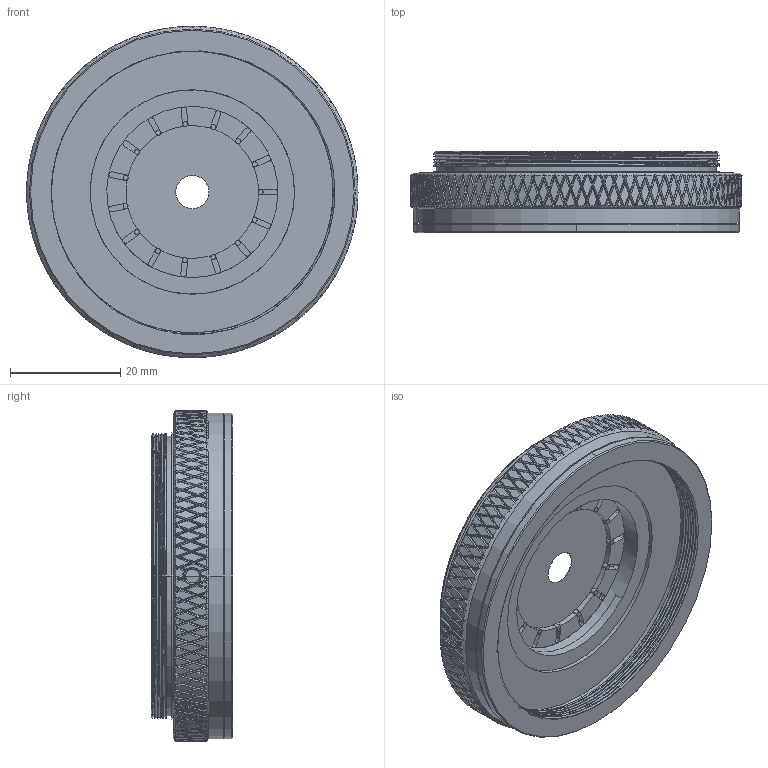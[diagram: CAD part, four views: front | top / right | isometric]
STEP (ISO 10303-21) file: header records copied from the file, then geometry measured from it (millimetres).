
FILE_DESCRIPTION((''),'2;1');
FILE_NAME('CDM-25_ASM','2025-07-01T11:52:51',('R&D'),(''),'CREO PARAMETRIC BY PTC INC, 2021063','CREO PARAMETRIC BY PTC INC, 2021063','');
FILE_SCHEMA(('CONFIG_CONTROL_DESIGN'));
Products named in the file (7): CDM-25-1; CDM-25-2; CDM-25-3; CDM-25-4; CDM-25-5; CDM-25-6; CDM-25_ASM
Assembly tree (6 placements, depth 2):
  CDM-25_ASM
    CDM-25-1
    CDM-25-2
    CDM-25-3
    CDM-25-4
    CDM-25-5
    CDM-25-6
Bounding box: 60.12 x 14.75 x 60 mm (x, y, z)
Volume: 19349.3 mm3; surface area: 18518.8 mm2
Topology: 6 solids, 6 shells, 1921 faces, 4558 edges, 2692 vertices
Faces by surface type: bspline 1236, cylinder 560, plane 103, cone 14, torus 8
Entity records: 89973 total; most frequent: CARTESIAN_POINT 56400, ORIENTED_EDGE 9116, EDGE_CURVE 4558, B_SPLINE_CURVE_WITH_KNOTS 3568, DIRECTION 3005, VERTEX_POINT 2692, EDGE_LOOP 1984, FACE_OUTER_BOUND 1921
